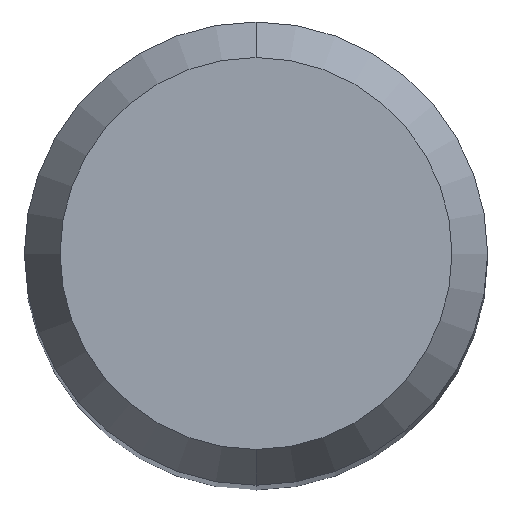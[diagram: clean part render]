
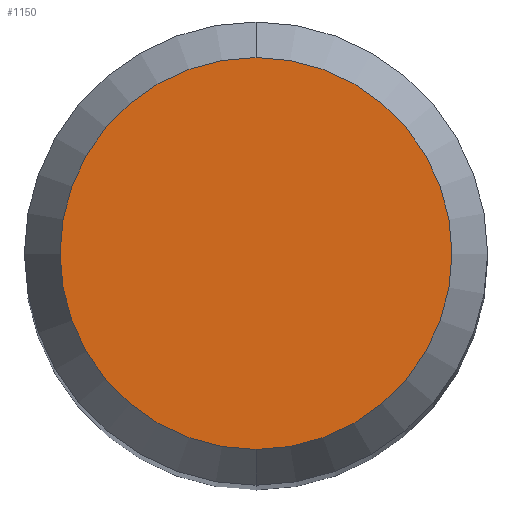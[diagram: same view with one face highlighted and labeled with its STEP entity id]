
A CAD part, top view. The second image highlights one B-rep face of the part: STEP entity #1150.
In plain terms, the highlighted planar face has unit normal (0, 0, 1).
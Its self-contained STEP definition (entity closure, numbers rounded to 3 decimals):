
#798=EDGE_CURVE('',#2078,#1274,#2233,.T.);
#1150=ADVANCED_FACE('',(#2610),#2611,.T.);
#1274=VERTEX_POINT('',#2750);
#1858=EDGE_CURVE('',#1274,#2078,#3391,.T.);
#2078=VERTEX_POINT('',#3627);
#2233=CIRCLE('',#4368,2.538);
#2610=FACE_OUTER_BOUND('',#7360,.T.);
#2611=PLANE('',#7361);
#2750=CARTESIAN_POINT('',(0.,-2.538,0.0));
#3391=CIRCLE('',#14765,2.538);
#3627=CARTESIAN_POINT('',(0.0,2.538,0.0));
#4368=AXIS2_PLACEMENT_3D('',#16989,#16990,#16991);
#7360=EDGE_LOOP('',(#17296,#17297));
#7361=AXIS2_PLACEMENT_3D('',#17298,#17299,#17300);
#14765=AXIS2_PLACEMENT_3D('',#18087,#18088,#18089);
#16989=CARTESIAN_POINT('',(0.0,0.0,0.0));
#16990=DIRECTION('',(0.0,0.0,-1.0));
#16991=DIRECTION('',(0.0,1.0,0.0));
#17296=ORIENTED_EDGE('',*,*,#798,.F.);
#17297=ORIENTED_EDGE('',*,*,#1858,.F.);
#17298=CARTESIAN_POINT('',(0.0,1.269,0.0));
#17299=DIRECTION('',(-0.0,0.0,1.0));
#17300=DIRECTION('',(0.0,-1.0,0.0));
#18087=CARTESIAN_POINT('',(0.0,0.0,0.0));
#18088=DIRECTION('',(0.0,0.0,-1.0));
#18089=DIRECTION('',(0.0,1.0,0.0));
